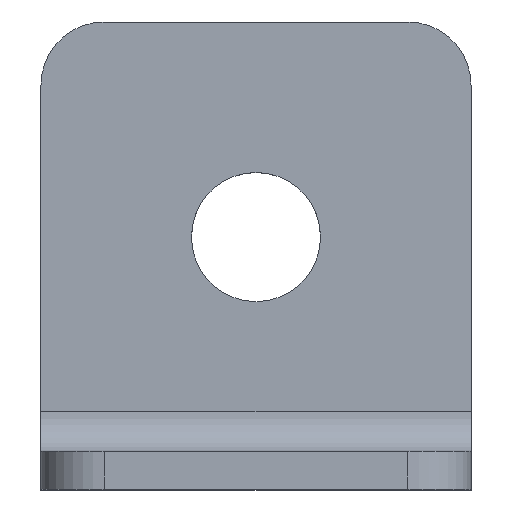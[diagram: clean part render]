
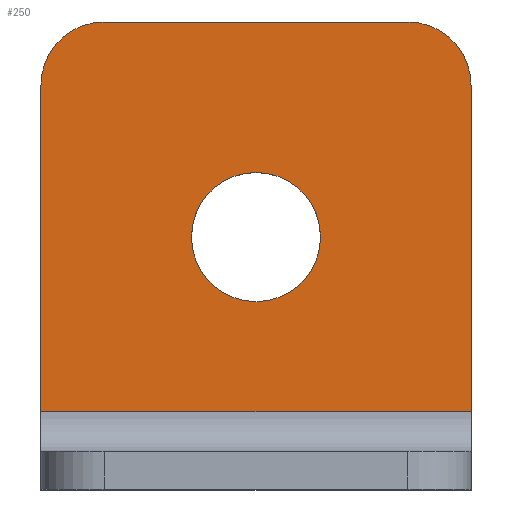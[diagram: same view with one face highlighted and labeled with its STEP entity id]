
A CAD part, top view. The second image highlights one B-rep face of the part: STEP entity #250.
In plain terms, the highlighted planar face has unit normal (0, 0, 1).
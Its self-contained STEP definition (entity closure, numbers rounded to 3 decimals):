
#1 = DIRECTION ( 'NONE',  ( 1., 0., 0. ) ) ;
#3 = AXIS2_PLACEMENT_3D ( 'NONE', #366, #49, #429 ) ;
#44 = PLANE ( 'NONE',  #500 ) ;
#49 = DIRECTION ( 'NONE',  ( 0., 0., 1. ) ) ;
#55 = VERTEX_POINT ( 'NONE', #235 ) ;
#65 = CARTESIAN_POINT ( 'NONE',  ( -3.915, 1.489, 1.5 ) ) ;
#75 = CARTESIAN_POINT ( 'NONE',  ( 1.185, 1.489, 1.5 ) ) ;
#85 = ORIENTED_EDGE ( 'NONE', *, *, #492, .T. ) ;
#88 = EDGE_LOOP ( 'NONE', ( #654, #299 ) ) ;
#105 = CARTESIAN_POINT ( 'NONE',  ( -7.365, 9.989, 1.5 ) ) ;
#107 = AXIS2_PLACEMENT_3D ( 'NONE', #642, #319, #1 ) ;
#115 = VERTEX_POINT ( 'NONE', #105 ) ;
#118 = FACE_OUTER_BOUND ( 'NONE', #205, .T. ) ;
#135 = ORIENTED_EDGE ( 'NONE', *, *, #202, .T. ) ;
#137 = LINE ( 'NONE', #323, #524 ) ;
#140 = EDGE_CURVE ( 'NONE', #652, #55, #580, .T. ) ;
#143 = DIRECTION ( 'NONE',  ( 0., 0., 1. ) ) ;
#187 = CIRCLE ( 'NONE', #372, 2.5 ) ;
#188 = DIRECTION ( 'NONE',  ( 0., 0., 1. ) ) ;
#202 = EDGE_CURVE ( 'NONE', #521, #243, #568, .T. ) ;
#205 = EDGE_LOOP ( 'NONE', ( #365, #643, #135, #304, #258, #85 ) ) ;
#217 = CARTESIAN_POINT ( 'NONE',  ( -9.865, 9.989, 1.5 ) ) ;
#231 = EDGE_CURVE ( 'NONE', #603, #279, #408, .T. ) ;
#235 = CARTESIAN_POINT ( 'NONE',  ( -9.865, -5.411, 1.5 ) ) ;
#243 = VERTEX_POINT ( 'NONE', #418 ) ;
#250 = ADVANCED_FACE ( 'NONE', ( #118, #278 ), #44, .T. ) ;
#258 = ORIENTED_EDGE ( 'NONE', *, *, #601, .T. ) ;
#260 = VECTOR ( 'NONE', #416, 1000. ) ;
#277 = DIRECTION ( 'NONE',  ( -1., 0., 0. ) ) ;
#278 = FACE_BOUND ( 'NONE', #88, .T. ) ;
#279 = VERTEX_POINT ( 'NONE', #75 ) ;
#280 = CARTESIAN_POINT ( 'NONE',  ( -9.865, 7.489, 1.5 ) ) ;
#281 = CIRCLE ( 'NONE', #3, 2.55 ) ;
#299 = ORIENTED_EDGE ( 'NONE', *, *, #231, .F. ) ;
#301 = CARTESIAN_POINT ( 'NONE',  ( -1.365, 1.489, 1.5 ) ) ;
#304 = ORIENTED_EDGE ( 'NONE', *, *, #386, .T. ) ;
#319 = DIRECTION ( 'NONE',  ( 0., 0., 1. ) ) ;
#323 = CARTESIAN_POINT ( 'NONE',  ( 0., -5.411, 1.5 ) ) ;
#339 = LINE ( 'NONE', #217, #608 ) ;
#345 = AXIS2_PLACEMENT_3D ( 'NONE', #301, #675, #362 ) ;
#362 = DIRECTION ( 'NONE',  ( 1., 0., 0. ) ) ;
#365 = ORIENTED_EDGE ( 'NONE', *, *, #140, .T. ) ;
#366 = CARTESIAN_POINT ( 'NONE',  ( -1.365, 1.489, 1.5 ) ) ;
#372 = AXIS2_PLACEMENT_3D ( 'NONE', #518, #188, #571 ) ;
#376 = DIRECTION ( 'NONE',  ( 0., -1., 0. ) ) ;
#377 = CARTESIAN_POINT ( 'NONE',  ( 7.135, -5.411, 1.5 ) ) ;
#386 = EDGE_CURVE ( 'NONE', #243, #450, #187, .T. ) ;
#408 = CIRCLE ( 'NONE', #345, 2.55 ) ;
#416 = DIRECTION ( 'NONE',  ( 0., 1., 0. ) ) ;
#418 = CARTESIAN_POINT ( 'NONE',  ( 7.135, 7.489, 1.5 ) ) ;
#429 = DIRECTION ( 'NONE',  ( 1., 0., 0. ) ) ;
#443 = VECTOR ( 'NONE', #376, 1000. ) ;
#450 = VERTEX_POINT ( 'NONE', #528 ) ;
#473 = CARTESIAN_POINT ( 'NONE',  ( 0., 0., 1.5 ) ) ;
#476 = EDGE_CURVE ( 'NONE', #279, #603, #281, .T. ) ;
#489 = CARTESIAN_POINT ( 'NONE',  ( -9.865, 9.989, 1.5 ) ) ;
#492 = EDGE_CURVE ( 'NONE', #115, #652, #554, .T. ) ;
#500 = AXIS2_PLACEMENT_3D ( 'NONE', #473, #143, #526 ) ;
#518 = CARTESIAN_POINT ( 'NONE',  ( 4.635, 7.489, 1.5 ) ) ;
#521 = VERTEX_POINT ( 'NONE', #377 ) ;
#524 = VECTOR ( 'NONE', #544, 1000. ) ;
#526 = DIRECTION ( 'NONE',  ( 1., 0., 0. ) ) ;
#528 = CARTESIAN_POINT ( 'NONE',  ( 4.635, 9.989, 1.5 ) ) ;
#544 = DIRECTION ( 'NONE',  ( 1., 0., 0. ) ) ;
#554 = CIRCLE ( 'NONE', #107, 2.5 ) ;
#555 = EDGE_CURVE ( 'NONE', #55, #521, #137, .T. ) ;
#568 = LINE ( 'NONE', #625, #260 ) ;
#571 = DIRECTION ( 'NONE',  ( 1., 0., 0. ) ) ;
#580 = LINE ( 'NONE', #489, #443 ) ;
#601 = EDGE_CURVE ( 'NONE', #450, #115, #339, .T. ) ;
#603 = VERTEX_POINT ( 'NONE', #65 ) ;
#608 = VECTOR ( 'NONE', #277, 1000. ) ;
#625 = CARTESIAN_POINT ( 'NONE',  ( 7.135, 9.989, 1.5 ) ) ;
#642 = CARTESIAN_POINT ( 'NONE',  ( -7.365, 7.489, 1.5 ) ) ;
#643 = ORIENTED_EDGE ( 'NONE', *, *, #555, .T. ) ;
#652 = VERTEX_POINT ( 'NONE', #280 ) ;
#654 = ORIENTED_EDGE ( 'NONE', *, *, #476, .F. ) ;
#675 = DIRECTION ( 'NONE',  ( 0., 0., 1. ) ) ;
